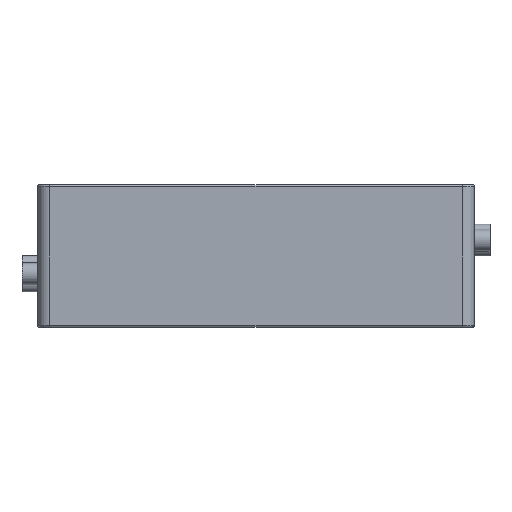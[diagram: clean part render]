
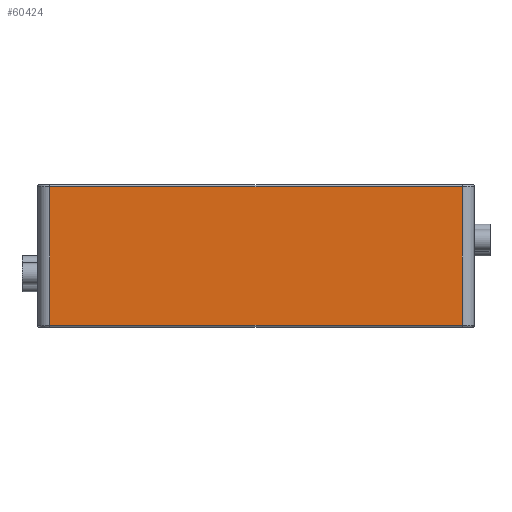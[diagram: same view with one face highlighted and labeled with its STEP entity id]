
A CAD part, front view. The second image highlights one B-rep face of the part: STEP entity #60424.
In plain terms, the highlighted planar face has unit normal (0, -1, 0).
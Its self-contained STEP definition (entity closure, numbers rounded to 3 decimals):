
#615 = VECTOR ( 'NONE', #27618, 1000. ) ;
#3793 = LINE ( 'NONE', #70139, #70059 ) ;
#4003 = EDGE_CURVE ( 'NONE', #71038, #42472, #63154, .T. ) ;
#4638 = CARTESIAN_POINT ( 'NONE',  ( -64.046, -35.058, 144. ) ) ;
#6447 = ORIENTED_EDGE ( 'NONE', *, *, #70854, .F. ) ;
#17734 = LINE ( 'NONE', #59620, #615 ) ;
#17859 = DIRECTION ( 'NONE',  ( 0., 0., 1. ) ) ;
#20267 = CARTESIAN_POINT ( 'NONE',  ( 42.954, -35.058, 108.5 ) ) ;
#22409 = CARTESIAN_POINT ( 'NONE',  ( -61.046, -35.058, 143.5 ) ) ;
#22994 = EDGE_CURVE ( 'NONE', #62898, #81236, #3793, .T. ) ;
#24244 = DIRECTION ( 'NONE',  ( 1., 0., 0. ) ) ;
#25278 = ORIENTED_EDGE ( 'NONE', *, *, #45219, .F. ) ;
#27618 = DIRECTION ( 'NONE',  ( 0., 0., -1. ) ) ;
#33037 = VECTOR ( 'NONE', #24244, 1000. ) ;
#36343 = CARTESIAN_POINT ( 'NONE',  ( -61.046, -35.058, 108.5 ) ) ;
#38415 = CARTESIAN_POINT ( 'NONE',  ( -61.046, -35.058, 144. ) ) ;
#40685 = LINE ( 'NONE', #38415, #81779 ) ;
#42472 = VERTEX_POINT ( 'NONE', #46642 ) ;
#44695 = EDGE_LOOP ( 'NONE', ( #82497, #6447, #48918, #25278 ) ) ;
#45167 = DIRECTION ( 'NONE',  ( 0., 0., 1. ) ) ;
#45219 = EDGE_CURVE ( 'NONE', #42472, #62898, #17734, .T. ) ;
#46473 = FACE_OUTER_BOUND ( 'NONE', #44695, .T. ) ;
#46642 = CARTESIAN_POINT ( 'NONE',  ( 42.954, -35.058, 143.5 ) ) ;
#48918 = ORIENTED_EDGE ( 'NONE', *, *, #22994, .F. ) ;
#49834 = PLANE ( 'NONE',  #75535 ) ;
#56299 = DIRECTION ( 'NONE',  ( 0., 1., 0. ) ) ;
#59620 = CARTESIAN_POINT ( 'NONE',  ( 42.954, -35.058, 144. ) ) ;
#60424 = ADVANCED_FACE ( 'NONE', ( #46473 ), #49834, .F. ) ;
#62690 = CARTESIAN_POINT ( 'NONE',  ( -9.046, -35.058, 143.5 ) ) ;
#62898 = VERTEX_POINT ( 'NONE', #20267 ) ;
#63154 = LINE ( 'NONE', #62690, #33037 ) ;
#69866 = DIRECTION ( 'NONE',  ( -1., 0., 0. ) ) ;
#70059 = VECTOR ( 'NONE', #69866, 1000. ) ;
#70139 = CARTESIAN_POINT ( 'NONE',  ( 45.954, -35.058, 108.5 ) ) ;
#70854 = EDGE_CURVE ( 'NONE', #81236, #71038, #40685, .T. ) ;
#71038 = VERTEX_POINT ( 'NONE', #22409 ) ;
#75535 = AXIS2_PLACEMENT_3D ( 'NONE', #4638, #56299, #17859 ) ;
#81236 = VERTEX_POINT ( 'NONE', #36343 ) ;
#81779 = VECTOR ( 'NONE', #45167, 1000. ) ;
#82497 = ORIENTED_EDGE ( 'NONE', *, *, #4003, .F. ) ;
